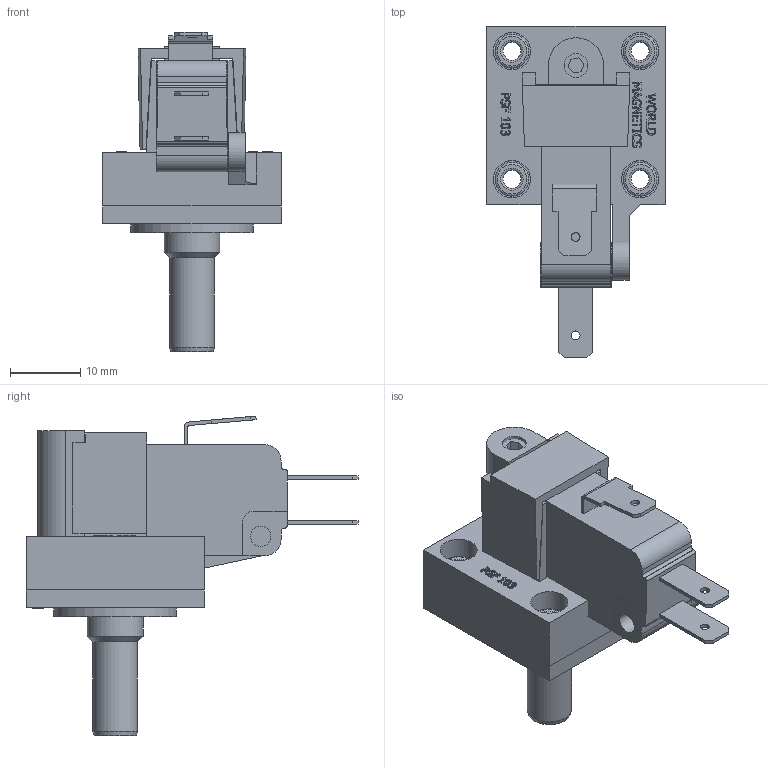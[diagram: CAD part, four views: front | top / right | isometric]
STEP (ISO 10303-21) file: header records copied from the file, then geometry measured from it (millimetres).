
FILE_DESCRIPTION((''),'2;1');
FILE_NAME('G:\DRAWINGS\SWITCH\INVENTOR DRAWINGS\WORLD MAGNETICS SWITCH\WM SALES STP FILES\914X.stp','2011-05-19T12:12:28',('dale'),(''),'Autodesk Inventor 2009','Autodesk Inventor 2009','');
FILE_SCHEMA(('AUTOMOTIVE_DESIGN { 1 0 10303 214 1 1 1 1 }'));
Length unit declared in the file: inch
Products named in the file (7): 914X; 60942-STP; 61020-STP; 60339-STP; 60193; 60016; 60344
Assembly tree (9 placements, depth 2):
  914X
    60942-STP
    61020-STP
    60339-STP
    60193  x4
    60016
    60344
Bounding box: 25.4 x 47.27 x 45.53 mm (x, y, z)
Volume: 12687.1 mm3; surface area: 10044.4 mm2
Topology: 10 solids, 10 shells, 637 faces, 1620 edges, 1067 vertices
Faces by surface type: plane 364, bspline 197, cylinder 55, torus 16, cone 5
Full cylindrical faces by diameter (mm): 1.27 x3, 2.565 x4, 2.896 x1, 3.073 x4, 3.372 x1, 4.166 x1, 4.572 x4, 4.826 x4, 5.08 x4, 6.35 x1, 7.925 x1, 17.45 x1
Entity records: 19595 total; most frequent: CARTESIAN_POINT 6042, ORIENTED_EDGE 2946, DIRECTION 2134, EDGE_CURVE 1473, VECTOR 1054, LINE 1054, VERTEX_POINT 1005, EDGE_LOOP 710
